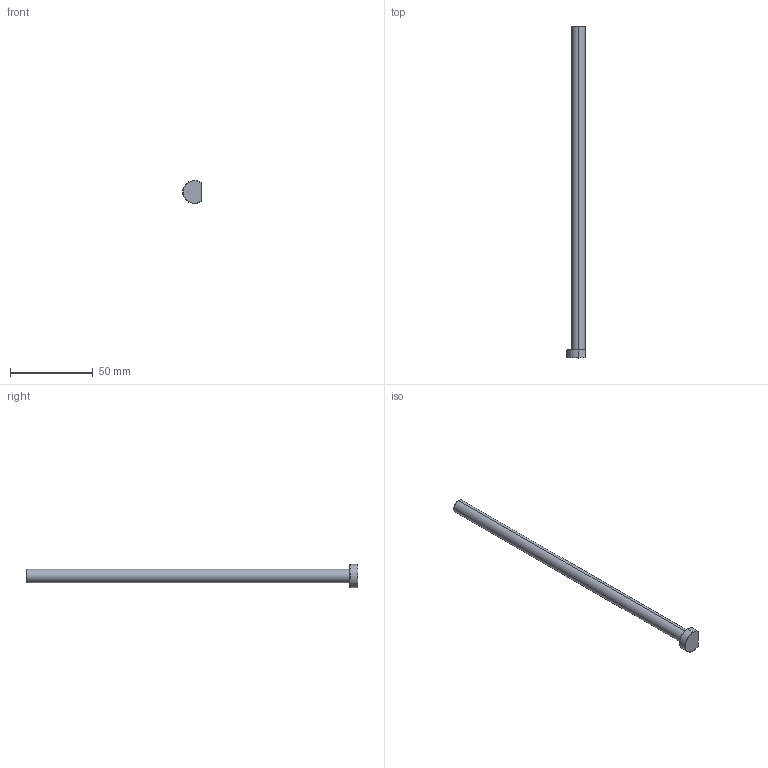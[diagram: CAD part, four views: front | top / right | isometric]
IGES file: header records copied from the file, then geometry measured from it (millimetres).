
Start section: SolidWorks IGES file using analytic representation for surfaces
Global section: file name: C:\Users\365admin\AppData\Local\Temp\InFlowConvert3DWorking\EPD082L200-K.igs; native system: SolidWorks 2019; preprocessor: SolidWorks 2019; author: 365admin; date: 220408.123847; units: millimetre
Bounding box: 11.1 x 200 x 14 mm (x, y, z)
Surface area: 5486.3 mm2 (no closed solid volume)
Topology: 0 solids, 0 shells, 18 faces, 195 edges, 195 vertices
Faces by surface type: revolution 11, bspline 7
